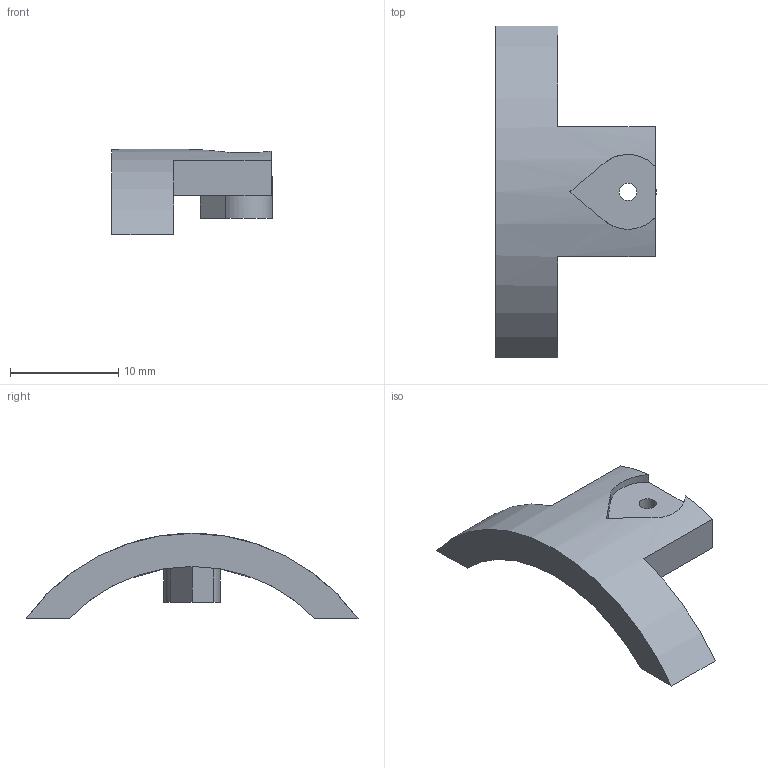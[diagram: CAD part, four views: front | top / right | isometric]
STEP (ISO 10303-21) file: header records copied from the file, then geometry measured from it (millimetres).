
FILE_DESCRIPTION(('SkyG Speed 90B - revision C6B-7 - 2026-10-08','HL1-hatch-lip-front'),'2;1');
FILE_NAME('HL1-hatch-lip-front_C6B-7','2026-10-08T18:09:16',('Author'),( 'Open CASCADE'),'Open CASCADE STEP processor 7.9','Open CASCADE 7.9' ,'Unknown');
FILE_SCHEMA(('AUTOMOTIVE_DESIGN { 1 0 10303 214 1 1 1 1 }'));
Length unit declared in the file: millimetre
Products named in the file (1): HL1-hatch-lip-front C6B-7
Bounding box: 14.8 x 30.62 x 7.85 mm (x, y, z)
Volume: 898 mm3; surface area: 950.1 mm2
Topology: 1 solids, 1 shells, 21 faces, 57 edges, 38 vertices
Faces by surface type: plane 15, cylinder 6
Full cylindrical faces by diameter (mm): 1.6 x1
Entity records: 1659 total; most frequent: CARTESIAN_POINT 573, DIRECTION 181, ORIENTED_EDGE 114, PCURVE 114, DEFINITIONAL_REPRESENTATION 114, LINE 78, VECTOR 78, EDGE_CURVE 57
